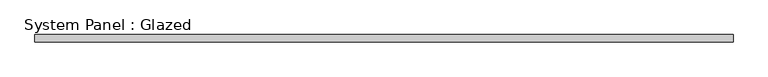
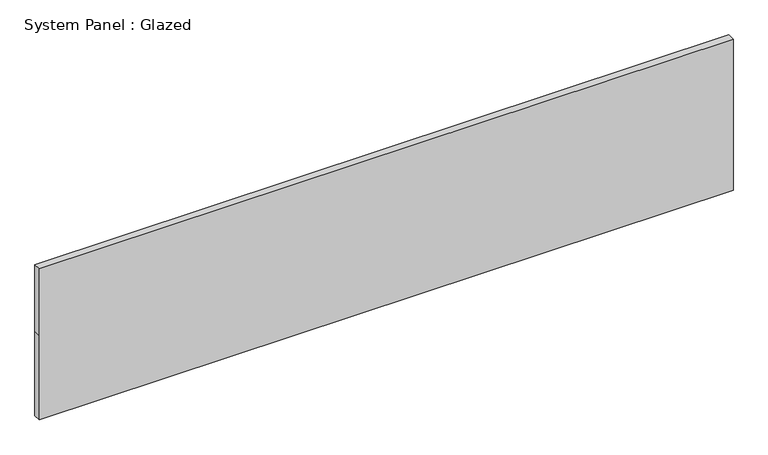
"""IFC4 building model written with IfcOpenShell, lengths in millimetres: plate geometry, System Panel : Glazed."""

import ifcopenshell
import ifcopenshell.guid

model = None  # the IFC model being written
_history = None  # IfcOwnerHistory: only IFC2X3 demands one
_inside = {}  # id of a spatial element -> (the spatial element, [elements in it])
_under = {}  # id of a project, library or spatial element -> (it, [spatial elements below it])
_declared = {}  # id of a project -> (the project, [libraries it declares])
_typed = {}  # id of a type object -> (the type object, [elements of that type])
_made_of = {}  # id of a material, layer set ... -> (it, [elements and type objects made of it])


def new_model(schema):
    """Start an empty IFC model of exactly this schema.

    Asked for "IFC4X3", IfcOpenShell would pick the latest addendum, in which some entities
    have other attributes; the version numbers below select the first issue.
    IFC2X3 requires an IfcOwnerHistory on every rooted entity: one is made here for all.
    """
    global model, _history
    if schema == "IFC4X3":
        model = ifcopenshell.file(schema_version=(4, 3, 0, 0))
    else:
        model = ifcopenshell.file(schema=schema)
    _inside.clear()
    _under.clear()
    _declared.clear()
    _typed.clear()
    _made_of.clear()
    _history = None
    if model.schema == "IFC2X3":
        org = make("IfcOrganization", Name="unknown")
        user = make(
            "IfcPersonAndOrganization",
            ThePerson=make("IfcPerson", FamilyName="unknown"),
            TheOrganization=org,
        )
        app = make(
            "IfcApplication",
            ApplicationDeveloper=org,
            Version="unknown",
            ApplicationFullName="unknown",
            ApplicationIdentifier="unknown",
        )
        _history = make(
            "IfcOwnerHistory",
            OwningUser=user,
            OwningApplication=app,
            ChangeAction="ADDED",
            CreationDate=0,
        )
    return model


def make(cls, **values):
    """One entity of the class cls with the attributes given. An attribute that is None is left unset."""
    return model.create_entity(
        cls, **{name: value for name, value in values.items() if value is not None}
    )


def rooted(cls, **values):
    """An entity with a GlobalId (a new one), such as an element, a storey or a relation."""
    return make(cls, GlobalId=ifcopenshell.guid.new(), OwnerHistory=_history, **values)


def si_unit(unit_type, name, prefix=None):
    """IfcSIUnit, for example si_unit("LENGTHUNIT", "METRE", prefix="MILLI")."""
    return make("IfcSIUnit", UnitType=unit_type, Prefix=prefix, Name=name)


def assignment(units):
    """IfcUnitAssignment: the units of a project."""
    return None if units is None else make("IfcUnitAssignment", Units=units)


def point(xyz):
    """IfcCartesianPoint."""
    return None if xyz is None else make("IfcCartesianPoint", Coordinates=xyz)


def direction(xyz):
    """IfcDirection."""
    return None if xyz is None else make("IfcDirection", DirectionRatios=xyz)


def frame(location, z_axis=None, x_axis=None):
    """IfcAxis2Placement3D, a coordinate frame: its origin and axes. An axis left out is left unset."""
    return make(
        "IfcAxis2Placement3D",
        Location=point(location),
        Axis=direction(z_axis),
        RefDirection=direction(x_axis),
    )


def origin():
    """The frame at (0, 0, 0) with its axes left unset."""
    return frame((0.0, 0.0, 0.0))


def place(relative_to, where):
    """IfcLocalPlacement: puts the frame where relative to a parent placement (None: the world)."""
    return make(
        "IfcLocalPlacement", PlacementRelTo=relative_to, RelativePlacement=where
    )


def context(
    kind, dimensions, precision=None, world=None, true_north=None, identifier=None
):
    """IfcGeometricRepresentationContext, for example the 3D "Model" context."""
    return make(
        "IfcGeometricRepresentationContext",
        ContextIdentifier=identifier,
        ContextType=kind,
        CoordinateSpaceDimension=dimensions,
        Precision=precision,
        WorldCoordinateSystem=world,
        TrueNorth=true_north,
    )


def project(units=None, contexts=None):
    """IfcProject with its units and contexts."""
    return rooted(
        "IfcProject",
        Name="project",
        RepresentationContexts=contexts,
        UnitsInContext=assignment(units),
    )


def spatial(cls, under=None, at=None, **own):
    """A site, building, storey or space (cls), placed at a placement, below another one or the project."""
    s = rooted(cls, ObjectPlacement=at, **own)
    if under is not None:
        _under.setdefault(under.id(), (under, []))[1].append(s)
    return s


def polyline(points):
    """IfcPolyline through the points."""
    return make("IfcPolyline", Points=[point(p) for p in points])


def outline(outer, holes=None, kind="AREA"):
    """IfcArbitraryClosedProfileDef: a profile drawn as a closed curve; with holes, ...WithVoids."""
    if holes is None:
        return make("IfcArbitraryClosedProfileDef", ProfileType=kind, OuterCurve=outer)
    return make(
        "IfcArbitraryProfileDefWithVoids",
        ProfileType=kind,
        OuterCurve=outer,
        InnerCurves=holes,
    )


def extrude(swept, where, along, depth):
    """IfcExtrudedAreaSolid: the profile swept, set in the frame where, extruded along a direction by depth."""
    return make(
        "IfcExtrudedAreaSolid",
        SweptArea=swept,
        Position=where,
        ExtrudedDirection=direction(along),
        Depth=depth,
    )


def shape(context_of_items, identifier, shape_type, items):
    """IfcShapeRepresentation: the items that make up one representation, for example the "Body"."""
    return make(
        "IfcShapeRepresentation",
        ContextOfItems=context_of_items,
        RepresentationIdentifier=identifier,
        RepresentationType=shape_type,
        Items=items,
    )


def source(mapping_origin, context_of_items, identifier, shape_type, items):
    """IfcRepresentationMap: a shape defined once, which mapped items show again and again."""
    return make(
        "IfcRepresentationMap",
        MappingOrigin=mapping_origin,
        MappedRepresentation=shape(context_of_items, identifier, shape_type, items),
    )


def transform(
    local_origin,
    x_axis=None,
    y_axis=None,
    z_axis=None,
    scale=None,
    scale2=None,
    scale3=None,
    uniform=True,
):
    """IfcCartesianTransformationOperator3D, or its non-uniform kind. x_axis, y_axis, z_axis: its Axis1, 2, 3."""
    if uniform:
        return make(
            "IfcCartesianTransformationOperator3D",
            Axis1=direction(x_axis),
            Axis2=direction(y_axis),
            LocalOrigin=point(local_origin),
            Scale=scale,
            Axis3=direction(z_axis),
        )
    return make(
        "IfcCartesianTransformationOperator3DnonUniform",
        Axis1=direction(x_axis),
        Axis2=direction(y_axis),
        LocalOrigin=point(local_origin),
        Scale=scale,
        Axis3=direction(z_axis),
        Scale2=scale2,
        Scale3=scale3,
    )


def mapped(mapping_source, mapping_target):
    """IfcMappedItem: shows the shape of a source again, moved by a transform."""
    return make(
        "IfcMappedItem", MappingSource=mapping_source, MappingTarget=mapping_target
    )


def made_of(thing, what):
    """Note that an element or type object is made of a material, layer set ...; save() writes the relation."""
    if what is not None:
        _made_of.setdefault(what.id(), (what, []))[1].append(thing)
    return thing


def element(
    cls,
    number,
    at=None,
    inside=None,
    cuts=None,
    type_object=None,
    material=None,
    context=None,
    identifier="Body",
    shape_type=None,
    held_by="IfcProductDefinitionShape",
    body=None,
    shapes=None,
    **own,
):
    """One element of the class cls, such as IfcWall. Its Tag is "e" and its number.

    at: its placement. inside: the storey or other place that contains it. cuts: it is an
    opening in that element (IfcRelVoidsElement). A single representation is given by context,
    identifier, shape_type and body (its items); several are given by shapes. held_by: the class
    of the entity that holds the representations. save() writes the other relations.
    """
    e = rooted(cls, Tag="e%d" % number, ObjectPlacement=at, **own)
    if body is not None:
        shapes = [shape(context, identifier, shape_type, body)]
    if shapes is not None:
        e.Representation = make(held_by, Representations=shapes)
    if inside is not None:
        _inside.setdefault(inside.id(), (inside, []))[1].append(e)
    if cuts is not None:
        rooted(
            "IfcRelVoidsElement", RelatingBuildingElement=cuts, RelatedOpeningElement=e
        )
    if type_object is not None:
        _typed.setdefault(type_object.id(), (type_object, []))[1].append(e)
    return made_of(e, material)


def aggregate(whole, parts):
    """IfcRelAggregates: a whole, such as a stair, and the parts it consists of."""
    return rooted("IfcRelAggregates", RelatingObject=whole, RelatedObjects=parts)


def save(model, path):
    """Write the relations noted so far, then the file.

    IfcRelAggregates (storeys below a building ...), IfcRelContainedInSpatialStructure (elements
    in a storey), IfcRelDefinesByType, IfcRelAssociatesMaterial and IfcRelDeclares: one each for
    every whole, place, type object, material and project.
    """
    for whole, parts in _under.values():
        aggregate(whole, parts)
    for where, things in _inside.values():
        rooted(
            "IfcRelContainedInSpatialStructure",
            RelatedElements=things,
            RelatingStructure=where,
        )
    for kind, things in _typed.values():
        rooted("IfcRelDefinesByType", RelatedObjects=things, RelatingType=kind)
    for what, things in _made_of.values():
        rooted("IfcRelAssociatesMaterial", RelatedObjects=things, RelatingMaterial=what)
    for by, libraries in _declared.values():
        rooted("IfcRelDeclares", RelatingContext=by, RelatedDefinitions=libraries)
    model.write(path)


def system_panel_glazed_75890ef7(model_context):
    return source(origin(), model_context, "Body", "SweptSolid", [
        extrude(outline(polyline([(0.0, -1187.45), (0.0, 1187.45), (304.8, 1187.45), (546.1, 1187.45), (546.1, -1187.45), (304.8, -1187.45), (0.0, -1187.45)])), frame((0.0, -44.45, 0.0), z_axis=(0.0, 1.0, 0.0), x_axis=(0.0, 0.0, 1.0)), (0.0, 0.0, 1.0), 25.4),
    ])


if __name__ == "__main__":
    model = new_model("IFC4")
    model_context = context("Model", 3, world=origin())
    ifc_project = project(units=[si_unit("LENGTHUNIT", "METRE", prefix="MILLI")], contexts=[model_context])
    site = spatial("IfcSite", under=ifc_project)
    building = spatial("IfcBuilding", under=site)
    placement = place(None, origin())
    system_panel_glazed_shape = system_panel_glazed_75890ef7(model_context)
    element("IfcPlate", 1, ObjectType="System Panel : Glazed", at=placement, inside=building, context=model_context, shape_type="MappedRepresentation", body=[
        mapped(system_panel_glazed_shape, transform((0.0, 0.0, 0.0), x_axis=(1.0, 0.0, 0.0), y_axis=(0.0, 1.0, 0.0), z_axis=(0.0, 0.0, 1.0))),
    ])
    save(model, "model.ifc")
